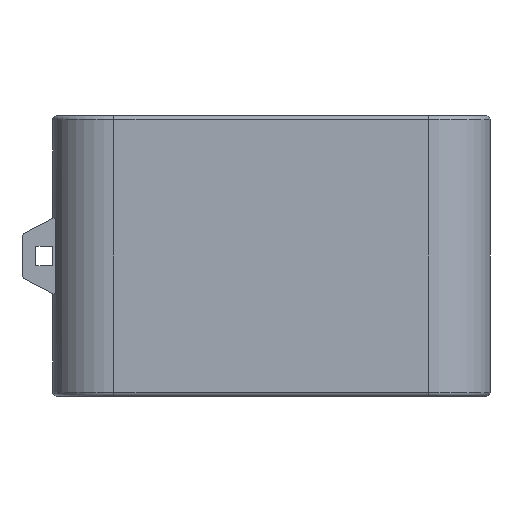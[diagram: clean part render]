
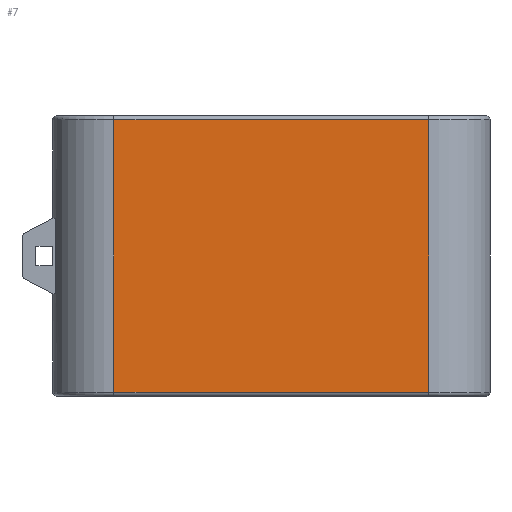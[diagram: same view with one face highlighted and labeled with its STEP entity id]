
A CAD part, front view. The second image highlights one B-rep face of the part: STEP entity #7.
In plain terms, the highlighted planar face has unit normal (0, -1, 0).
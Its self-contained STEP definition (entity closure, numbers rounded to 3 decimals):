
#7 = ADVANCED_FACE ( 'NONE', ( #2881 ), #1935, .T. ) ;
#175 = DIRECTION ( 'NONE',  ( 0., 0., 1. ) ) ;
#424 = LINE ( 'NONE', #1615, #988 ) ;
#512 = DIRECTION ( 'NONE',  ( 0., 0., -1. ) ) ;
#534 = CARTESIAN_POINT ( 'NONE',  ( -20.516, -7.5, -18.25 ) ) ;
#602 = LINE ( 'NONE', #3010, #2005 ) ;
#762 = EDGE_CURVE ( 'NONE', #2056, #3206, #424, .T. ) ;
#805 = VECTOR ( 'NONE', #2150, 1000. ) ;
#965 = CARTESIAN_POINT ( 'NONE',  ( 20.516, -7.5, -17.75 ) ) ;
#988 = VECTOR ( 'NONE', #1903, 1000. ) ;
#1146 = DIRECTION ( 'NONE',  ( 0., -1., 0. ) ) ;
#1275 = ORIENTED_EDGE ( 'NONE', *, *, #2944, .F. ) ;
#1452 = VERTEX_POINT ( 'NONE', #2069 ) ;
#1582 = EDGE_CURVE ( 'NONE', #2815, #2056, #3600, .T. ) ;
#1615 = CARTESIAN_POINT ( 'NONE',  ( -20.516, -7.5, 17.75 ) ) ;
#1644 = ORIENTED_EDGE ( 'NONE', *, *, #762, .T. ) ;
#1811 = EDGE_CURVE ( 'NONE', #1452, #2815, #602, .T. ) ;
#1903 = DIRECTION ( 'NONE',  ( -1., 0., 0. ) ) ;
#1935 = PLANE ( 'NONE',  #3135 ) ;
#2005 = VECTOR ( 'NONE', #3278, 1000. ) ;
#2021 = CARTESIAN_POINT ( 'NONE',  ( 20.516, -7.5, 17.75 ) ) ;
#2056 = VERTEX_POINT ( 'NONE', #2021 ) ;
#2069 = CARTESIAN_POINT ( 'NONE',  ( -20.516, -7.5, -17.75 ) ) ;
#2125 = VECTOR ( 'NONE', #175, 1000. ) ;
#2150 = DIRECTION ( 'NONE',  ( 0., 0., 1. ) ) ;
#2221 = LINE ( 'NONE', #2982, #805 ) ;
#2308 = ORIENTED_EDGE ( 'NONE', *, *, #1811, .T. ) ;
#2523 = ORIENTED_EDGE ( 'NONE', *, *, #1582, .T. ) ;
#2815 = VERTEX_POINT ( 'NONE', #965 ) ;
#2827 = EDGE_LOOP ( 'NONE', ( #1275, #2308, #2523, #1644 ) ) ;
#2881 = FACE_OUTER_BOUND ( 'NONE', #2827, .T. ) ;
#2944 = EDGE_CURVE ( 'NONE', #1452, #3206, #2221, .T. ) ;
#2974 = CARTESIAN_POINT ( 'NONE',  ( 20.516, -7.5, -18.25 ) ) ;
#2982 = CARTESIAN_POINT ( 'NONE',  ( -20.516, -7.5, -18.25 ) ) ;
#3010 = CARTESIAN_POINT ( 'NONE',  ( -20.516, -7.5, -17.75 ) ) ;
#3135 = AXIS2_PLACEMENT_3D ( 'NONE', #534, #1146, #512 ) ;
#3206 = VERTEX_POINT ( 'NONE', #3403 ) ;
#3278 = DIRECTION ( 'NONE',  ( 1., 0., 0. ) ) ;
#3403 = CARTESIAN_POINT ( 'NONE',  ( -20.516, -7.5, 17.75 ) ) ;
#3600 = LINE ( 'NONE', #2974, #2125 ) ;
